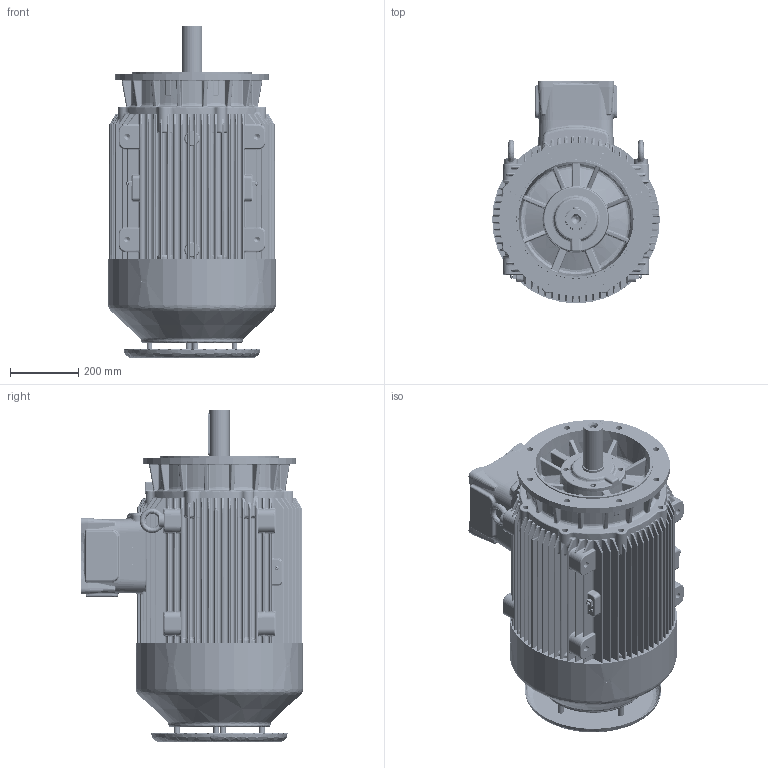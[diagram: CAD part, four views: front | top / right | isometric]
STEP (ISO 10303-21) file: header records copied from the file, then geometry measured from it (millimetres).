
FILE_DESCRIPTION (( 'STEP AP214' ), '1' );
FILE_NAME ('6RD225SM6E3 IM3011.STEP', '2021-08-12T12:41:52', ( '' ), ( '' ), 'SwSTEP 2.0', 'SolidWorks 2018', '' );
FILE_SCHEMA (( 'AUTOMOTIVE_DESIGN' ));
Length unit declared in the file: millimetre
Products named in the file (1): 6RD225SM6E3 IM3011
Bounding box: 491 x 651.5 x 972.5 mm (x, y, z)
Volume: 128088749.9 mm3; surface area: 3326749.1 mm2
Topology: 7 solids, 36 shells, 5894 faces, 14127 edges, 8494 vertices
Faces by surface type: cylinder 2583, bspline 1977, plane 1043, cone 274, torus 13, sphere 4
Entity records: 278957 total; most frequent: CARTESIAN_POINT 154862, ORIENTED_EDGE 27904, DIRECTION 23871, EDGE_CURVE 13952, AXIS2_PLACEMENT_3D 9883, VERTEX_POINT 8494, EDGE_LOOP 6294, CIRCLE 5965
